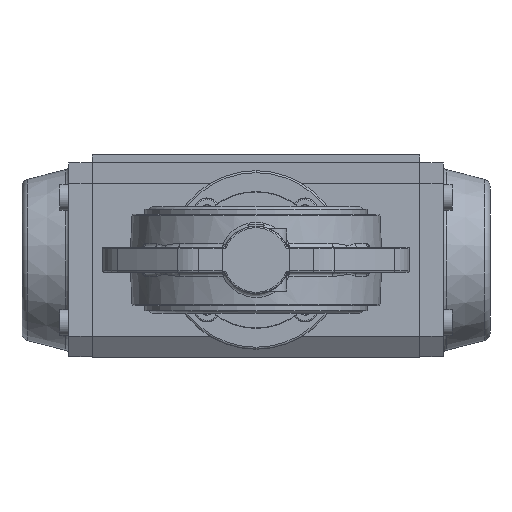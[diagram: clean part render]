
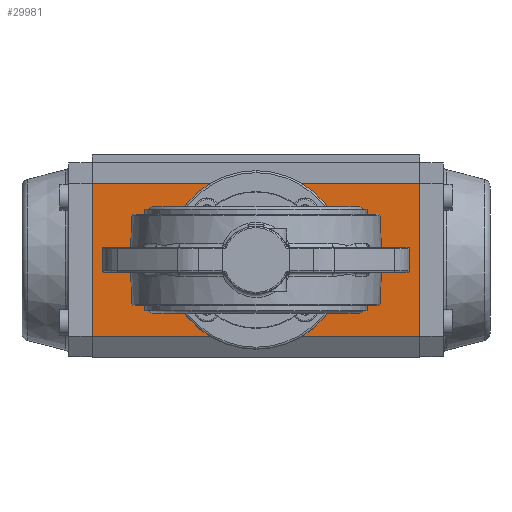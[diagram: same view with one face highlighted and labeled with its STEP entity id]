
A CAD part, front view. The second image highlights one B-rep face of the part: STEP entity #29981.
In plain terms, the highlighted planar face has unit normal (0, -1, 0).
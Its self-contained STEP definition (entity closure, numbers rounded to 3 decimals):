
#24 = CARTESIAN_POINT ( 'NONE',  ( -24.749, -55., 24.749 ) ) ;
#611 = LINE ( 'NONE', #2670, #55291 ) ;
#856 = VECTOR ( 'NONE', #11157, 1000. ) ;
#1174 = EDGE_CURVE ( 'NONE', #55795, #17564, #34374, .T. ) ;
#1547 = CARTESIAN_POINT ( 'NONE',  ( 24.749, -55., 28.149 ) ) ;
#1606 = DIRECTION ( 'NONE',  ( 0., 0., -1. ) ) ;
#1732 = DIRECTION ( 'NONE',  ( 0., 0., -1. ) ) ;
#1974 = CARTESIAN_POINT ( 'NONE',  ( 24.749, -55., 24.749 ) ) ;
#2570 = ORIENTED_EDGE ( 'NONE', *, *, #9952, .F. ) ;
#2670 = CARTESIAN_POINT ( 'NONE',  ( 38.5, -55., -82.5 ) ) ;
#2721 = EDGE_CURVE ( 'NONE', #40841, #4760, #46476, .T. ) ;
#2735 = ORIENTED_EDGE ( 'NONE', *, *, #54467, .F. ) ;
#2742 = DIRECTION ( 'NONE',  ( 0., 0., -1. ) ) ;
#3139 = ORIENTED_EDGE ( 'NONE', *, *, #32317, .F. ) ;
#3319 = ORIENTED_EDGE ( 'NONE', *, *, #20188, .F. ) ;
#4263 = CIRCLE ( 'NONE', #45677, 3.4 ) ;
#4398 = DIRECTION ( 'NONE',  ( 0., 0., -1. ) ) ;
#4760 = VERTEX_POINT ( 'NONE', #36641 ) ;
#4831 = CARTESIAN_POINT ( 'NONE',  ( 0., -55., -27.5 ) ) ;
#5161 = CARTESIAN_POINT ( 'NONE',  ( 24.749, -55., 21.349 ) ) ;
#5553 = CIRCLE ( 'NONE', #52341, 3.4 ) ;
#5644 = VERTEX_POINT ( 'NONE', #34293 ) ;
#6325 = DIRECTION ( 'NONE',  ( 0., 0., -1. ) ) ;
#6941 = CIRCLE ( 'NONE', #43520, 3.4 ) ;
#7001 = VERTEX_POINT ( 'NONE', #25320 ) ;
#7558 = VERTEX_POINT ( 'NONE', #23586 ) ;
#8002 = AXIS2_PLACEMENT_3D ( 'NONE', #11484, #41678, #15844 ) ;
#8161 = AXIS2_PLACEMENT_3D ( 'NONE', #53277, #27480, #1606 ) ;
#8591 = AXIS2_PLACEMENT_3D ( 'NONE', #54383, #28586, #2742 ) ;
#8593 = PLANE ( 'NONE',  #21632 ) ;
#8638 = ORIENTED_EDGE ( 'NONE', *, *, #38800, .F. ) ;
#9451 = CARTESIAN_POINT ( 'NONE',  ( -24.749, -55., 24.749 ) ) ;
#9952 = EDGE_CURVE ( 'NONE', #41206, #48196, #21892, .T. ) ;
#11058 = CARTESIAN_POINT ( 'NONE',  ( -38.5, -55., -82.5 ) ) ;
#11157 = DIRECTION ( 'NONE',  ( 1., 0., 0. ) ) ;
#11436 = ORIENTED_EDGE ( 'NONE', *, *, #2721, .F. ) ;
#11484 = CARTESIAN_POINT ( 'NONE',  ( 24.749, -55., -24.749 ) ) ;
#12923 = DIRECTION ( 'NONE',  ( 0., -1., 0. ) ) ;
#13708 = LINE ( 'NONE', #11058, #48098 ) ;
#13793 = DIRECTION ( 'NONE',  ( 0., 0., -1. ) ) ;
#15259 = CARTESIAN_POINT ( 'NONE',  ( -24.749, -55., -24.749 ) ) ;
#15844 = DIRECTION ( 'NONE',  ( 0., 0., -1. ) ) ;
#15904 = DIRECTION ( 'NONE',  ( 0., -1., 0. ) ) ;
#16947 = VERTEX_POINT ( 'NONE', #17796 ) ;
#17564 = VERTEX_POINT ( 'NONE', #49152 ) ;
#17578 = CARTESIAN_POINT ( 'NONE',  ( 24.749, -55., 24.749 ) ) ;
#17796 = CARTESIAN_POINT ( 'NONE',  ( 0., -55., 27.5 ) ) ;
#18189 = ORIENTED_EDGE ( 'NONE', *, *, #44813, .T. ) ;
#18294 = EDGE_LOOP ( 'NONE', ( #41856, #3319 ) ) ;
#19619 = DIRECTION ( 'NONE',  ( 0., 0., -1. ) ) ;
#19762 = EDGE_CURVE ( 'NONE', #7558, #23286, #611, .T. ) ;
#20188 = EDGE_CURVE ( 'NONE', #51324, #41306, #23684, .T. ) ;
#21164 = LINE ( 'NONE', #41347, #856 ) ;
#21200 = FACE_BOUND ( 'NONE', #43777, .T. ) ;
#21632 = AXIS2_PLACEMENT_3D ( 'NONE', #34404, #12923, #43105 ) ;
#21892 = CIRCLE ( 'NONE', #8161, 3.4 ) ;
#21908 = DIRECTION ( 'NONE',  ( 0., 0., -1. ) ) ;
#22434 = EDGE_CURVE ( 'NONE', #5644, #7001, #13708, .T. ) ;
#23286 = VERTEX_POINT ( 'NONE', #36593 ) ;
#23586 = CARTESIAN_POINT ( 'NONE',  ( 38.5, -55., -82.5 ) ) ;
#23684 = CIRCLE ( 'NONE', #54499, 3.4 ) ;
#23976 = ORIENTED_EDGE ( 'NONE', *, *, #19762, .T. ) ;
#25320 = CARTESIAN_POINT ( 'NONE',  ( -38.5, -55., 82.5 ) ) ;
#26148 = DIRECTION ( 'NONE',  ( 0., 0., 1. ) ) ;
#26278 = ORIENTED_EDGE ( 'NONE', *, *, #34199, .F. ) ;
#27480 = DIRECTION ( 'NONE',  ( 0., -1., 0. ) ) ;
#27603 = DIRECTION ( 'NONE',  ( 0., -1., 0. ) ) ;
#27728 = CARTESIAN_POINT ( 'NONE',  ( -38.5, -55., 82.5 ) ) ;
#28586 = DIRECTION ( 'NONE',  ( 0., -1., 0. ) ) ;
#29963 = AXIS2_PLACEMENT_3D ( 'NONE', #53393, #27603, #1732 ) ;
#29981 = ADVANCED_FACE ( 'NONE', ( #32666, #21200, #44112, #38088, #54229, #42784 ), #8593, .T. ) ;
#30211 = DIRECTION ( 'NONE',  ( 0., -1., 0. ) ) ;
#30705 = AXIS2_PLACEMENT_3D ( 'NONE', #24, #30211, #4398 ) ;
#30747 = EDGE_CURVE ( 'NONE', #16947, #33587, #32554, .T. ) ;
#32158 = DIRECTION ( 'NONE',  ( 0., -1., 0. ) ) ;
#32317 = EDGE_CURVE ( 'NONE', #7001, #23286, #38409, .T. ) ;
#32554 = CIRCLE ( 'NONE', #29963, 27.5 ) ;
#32666 = FACE_BOUND ( 'NONE', #18294, .T. ) ;
#33022 = CARTESIAN_POINT ( 'NONE',  ( 24.749, -55., -21.349 ) ) ;
#33309 = EDGE_LOOP ( 'NONE', ( #45053, #34507 ) ) ;
#33587 = VERTEX_POINT ( 'NONE', #4831 ) ;
#34092 = CARTESIAN_POINT ( 'NONE',  ( -24.749, -55., 28.149 ) ) ;
#34199 = EDGE_CURVE ( 'NONE', #17564, #55795, #46290, .T. ) ;
#34293 = CARTESIAN_POINT ( 'NONE',  ( -38.5, -55., -82.5 ) ) ;
#34374 = CIRCLE ( 'NONE', #41577, 3.4 ) ;
#34404 = CARTESIAN_POINT ( 'NONE',  ( -38.5, -55., -82.5 ) ) ;
#34507 = ORIENTED_EDGE ( 'NONE', *, *, #30747, .F. ) ;
#34513 = EDGE_LOOP ( 'NONE', ( #23976, #3139, #44063, #18189 ) ) ;
#34750 = CARTESIAN_POINT ( 'NONE',  ( -24.749, -55., -28.149 ) ) ;
#35519 = EDGE_LOOP ( 'NONE', ( #26278, #52271 ) ) ;
#36593 = CARTESIAN_POINT ( 'NONE',  ( 38.5, -55., 82.5 ) ) ;
#36641 = CARTESIAN_POINT ( 'NONE',  ( 24.749, -55., -28.149 ) ) ;
#37050 = VECTOR ( 'NONE', #44865, 1000. ) ;
#38088 = FACE_BOUND ( 'NONE', #35519, .T. ) ;
#38227 = EDGE_CURVE ( 'NONE', #41306, #51324, #4263, .T. ) ;
#38409 = LINE ( 'NONE', #27728, #37050 ) ;
#38800 = EDGE_CURVE ( 'NONE', #4760, #40841, #6941, .T. ) ;
#39626 = DIRECTION ( 'NONE',  ( 0., -1., 0. ) ) ;
#40829 = CIRCLE ( 'NONE', #8591, 27.5 ) ;
#40841 = VERTEX_POINT ( 'NONE', #33022 ) ;
#41206 = VERTEX_POINT ( 'NONE', #34750 ) ;
#41306 = VERTEX_POINT ( 'NONE', #5161 ) ;
#41347 = CARTESIAN_POINT ( 'NONE',  ( -38.5, -55., -82.5 ) ) ;
#41577 = AXIS2_PLACEMENT_3D ( 'NONE', #9451, #39626, #13793 ) ;
#41678 = DIRECTION ( 'NONE',  ( 0., -1., 0. ) ) ;
#41731 = CARTESIAN_POINT ( 'NONE',  ( 24.749, -55., -24.749 ) ) ;
#41856 = ORIENTED_EDGE ( 'NONE', *, *, #38227, .F. ) ;
#42784 = FACE_OUTER_BOUND ( 'NONE', #34513, .T. ) ;
#43105 = DIRECTION ( 'NONE',  ( 0., 0., -1. ) ) ;
#43520 = AXIS2_PLACEMENT_3D ( 'NONE', #41731, #15904, #46026 ) ;
#43777 = EDGE_LOOP ( 'NONE', ( #8638, #11436 ) ) ;
#44063 = ORIENTED_EDGE ( 'NONE', *, *, #22434, .F. ) ;
#44112 = FACE_BOUND ( 'NONE', #47462, .T. ) ;
#44813 = EDGE_CURVE ( 'NONE', #5644, #7558, #21164, .T. ) ;
#44865 = DIRECTION ( 'NONE',  ( 1., 0., 0. ) ) ;
#45053 = ORIENTED_EDGE ( 'NONE', *, *, #52704, .F. ) ;
#45387 = DIRECTION ( 'NONE',  ( 0., -1., 0. ) ) ;
#45677 = AXIS2_PLACEMENT_3D ( 'NONE', #1974, #32158, #6325 ) ;
#46026 = DIRECTION ( 'NONE',  ( 0., 0., -1. ) ) ;
#46077 = CARTESIAN_POINT ( 'NONE',  ( -24.749, -55., -21.349 ) ) ;
#46290 = CIRCLE ( 'NONE', #30705, 3.4 ) ;
#46476 = CIRCLE ( 'NONE', #8002, 3.4 ) ;
#47462 = EDGE_LOOP ( 'NONE', ( #2570, #2735 ) ) ;
#47712 = DIRECTION ( 'NONE',  ( 0., -1., 0. ) ) ;
#48098 = VECTOR ( 'NONE', #26148, 1000. ) ;
#48196 = VERTEX_POINT ( 'NONE', #46077 ) ;
#49152 = CARTESIAN_POINT ( 'NONE',  ( -24.749, -55., 21.349 ) ) ;
#51324 = VERTEX_POINT ( 'NONE', #1547 ) ;
#52271 = ORIENTED_EDGE ( 'NONE', *, *, #1174, .F. ) ;
#52341 = AXIS2_PLACEMENT_3D ( 'NONE', #15259, #45387, #19619 ) ;
#52704 = EDGE_CURVE ( 'NONE', #33587, #16947, #40829, .T. ) ;
#53277 = CARTESIAN_POINT ( 'NONE',  ( -24.749, -55., -24.749 ) ) ;
#53393 = CARTESIAN_POINT ( 'NONE',  ( 0., -55., 0. ) ) ;
#54229 = FACE_BOUND ( 'NONE', #33309, .T. ) ;
#54323 = DIRECTION ( 'NONE',  ( 0., 0., 1. ) ) ;
#54383 = CARTESIAN_POINT ( 'NONE',  ( 0., -55., 0. ) ) ;
#54467 = EDGE_CURVE ( 'NONE', #48196, #41206, #5553, .T. ) ;
#54499 = AXIS2_PLACEMENT_3D ( 'NONE', #17578, #47712, #21908 ) ;
#55291 = VECTOR ( 'NONE', #54323, 1000. ) ;
#55795 = VERTEX_POINT ( 'NONE', #34092 ) ;
